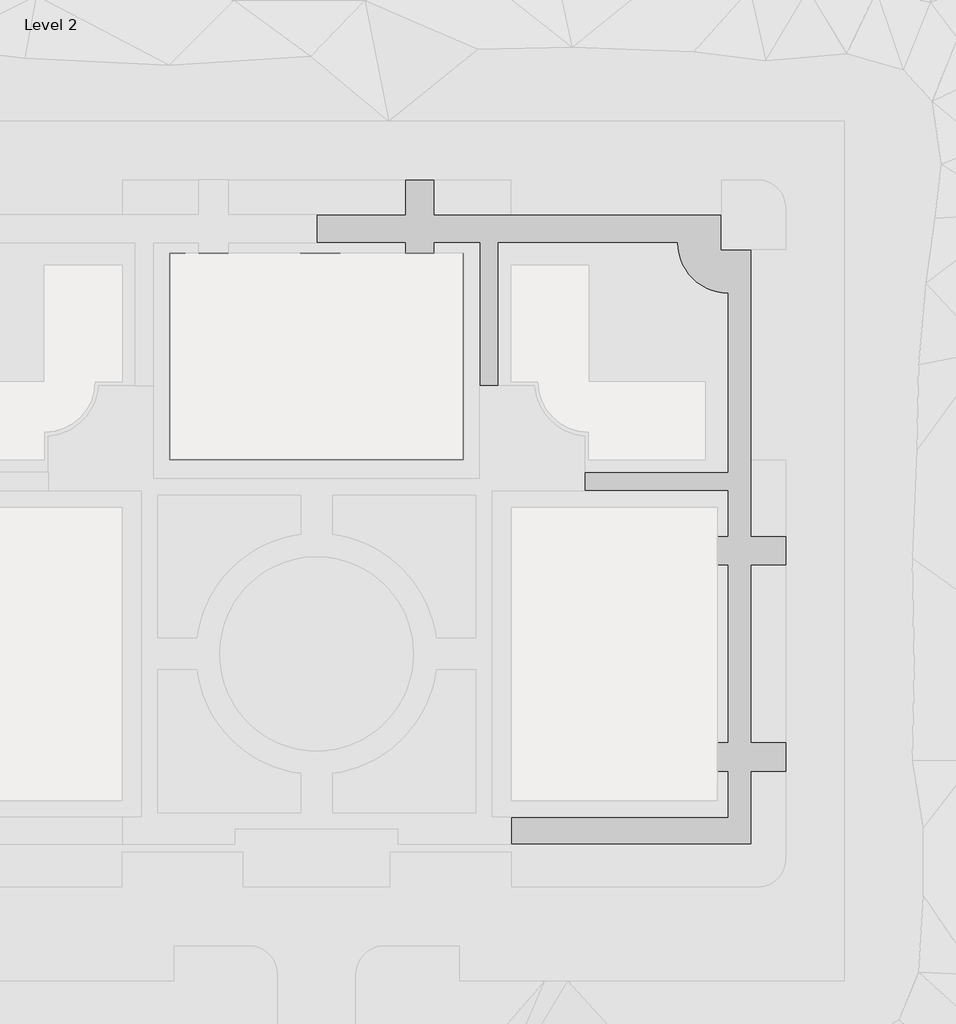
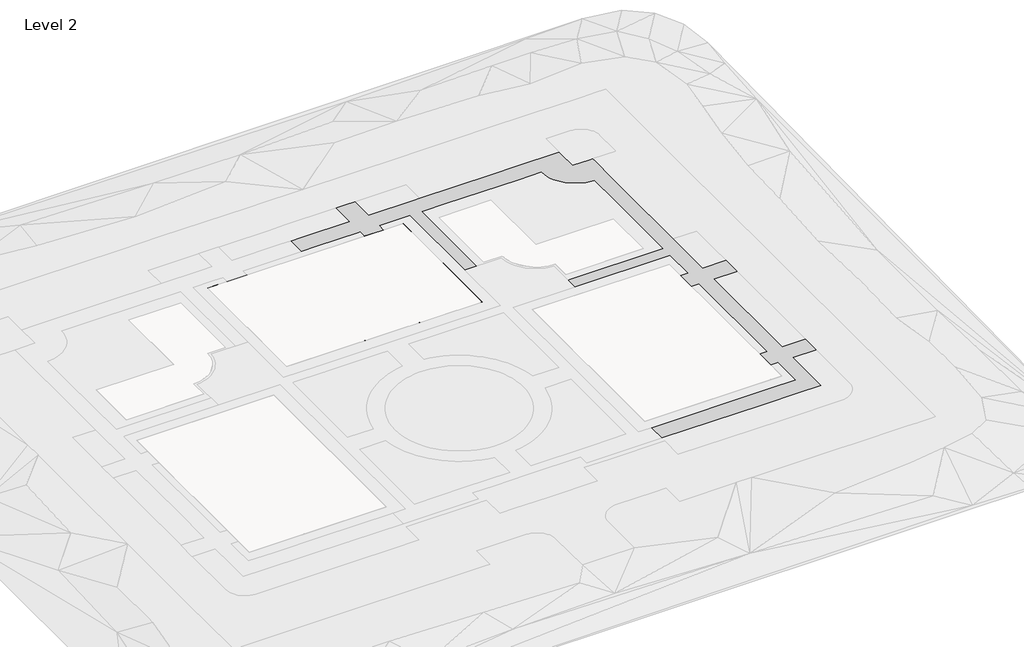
# One storey, part 3 of 3: 2 proxies.
"""IFC4 building model written with IfcOpenShell, lengths in millimetres."""

from ifc_helpers import new_model, si_unit, origin, place, context, project, spatial, triangles, element, save

model = new_model("IFC4")

# Units and contexts
model_context = context("Model", 3, world=origin())
ifc_project = project(units=[si_unit("LENGTHUNIT", "METRE", prefix="MILLI")], contexts=[model_context])

# Site, building, storey
site = spatial("IfcSite", under=ifc_project)
building = spatial("IfcBuilding", under=site)
storey = spatial("IfcBuildingStorey", under=building, Name="Level 2", Elevation=3047.9999999)

# Proxies
placement = place(None, origin())
element("IfcBuildingElementProxy", 1, Name="Building Element Proxy", at=placement, inside=storey, context=model_context, shape_type="Tessellation", body=[
    triangles([(-110993.3460205, -28178.7218628, 2743.0404167), (-110993.3460205, -28178.7218628, 3048.0), (-113374.7541504, -28178.7218628, 2743.0404167), (-113374.7541504, -28178.7218628, 3048.0), (-113374.7541504, -60487.5218628, 2743.0404167), (-113374.7541504, -60487.5218628, 3048.0), (-108258.9733887, -60487.5218628, 2743.0404167), (-108258.9733887, -60487.5218628, 3048.0), (-94745.3238281, -60487.5218628, 2743.0404167), (-94745.3238281, -60487.5218628, 3048.0), (-81900.5357666, -60487.5218628, 2743.0404167), (-81900.5357666, -60487.5218628, 3048.0), (-67349.9588013, -60487.5218628, 2743.0404167), (-67349.9588013, -60487.5218628, 3048.0), (-67349.9588013, -28178.7218628, 2743.0404167), (-67349.9588013, -28178.7218628, 3048.0)], [[1, 4, 2], [1, 3, 4], [3, 6, 4], [3, 5, 6], [5, 8, 6], [5, 7, 8], [7, 10, 8], [7, 9, 10], [9, 12, 10], [9, 11, 12], [11, 14, 12], [11, 13, 14], [13, 16, 14], [13, 15, 16]], closed=False),
    triangles([(-86679.0999023, -28178.7218628, 2743.0404167), (-86679.0999023, -28178.7218628, 3048.0), (-92962.2791748, -28178.7218628, 2743.0404167), (-92962.2791748, -28178.7218628, 3048.0)], [[1, 4, 2], [1, 3, 4]], closed=False),
    triangles([(-71921.9588013, -28178.7218628, 2743.0404167), (-71921.9588013, -28178.7218628, 3048.0), (-76493.9588013, -28178.7218628, 2743.0404167), (-76493.9588013, -28178.7218628, 3048.0)], [[1, 4, 2], [1, 3, 4]], closed=False),
    triangles([(-104230.7541504, -28178.7218628, 2743.0404167), (-104230.7541504, -28178.7218628, 3048.0), (-108802.7541504, -28178.7218628, 2743.0404167), (-108802.7541504, -28178.7218628, 3048.0)], [[1, 4, 2], [1, 3, 4]], closed=False),
    triangles([(-67349.9588013, -28178.7218628, 2743.0404167), (-113374.7541504, -28178.7218628, 2743.0404167), (-113374.7541504, -60487.5218628, 2743.0404167), (-67349.9588013, -60487.5218628, 2743.0404167)], [[2, 3, 4], [4, 1, 2]], closed=False),
])
element("IfcBuildingElementProxy", 2, Name="Building Element Proxy", at=placement, inside=storey, context=model_context, shape_type="Tessellation", body=[
    triangles([(-25876.6740051, -34406.6370667, 3048.0), (-25876.6740051, -42152.7479736, 3048.0), (-25876.6740051, -51845.1982178, 3048.0), (-25876.6740051, -62500.8408325, 3048.0), (-48299.9588013, -62500.8408325, 3048.0), (-48299.9588013, -65364.3218628, 3048.0), (-25876.6740051, -65364.3218628, 3048.0), (-25876.6740051, -72527.1218628, 3048.0), (-27573.5588013, -72527.1218628, 3048.0), (-27573.5588013, -77099.1218628, 3048.0), (-25876.6740051, -77099.1218628, 3048.0), (-25876.6740051, -104835.9265137, 3048.0), (-27573.5588013, -104835.9265137, 3048.0), (-27573.5588013, -109407.9265137, 3048.0), (-26101.4998169, -109407.9265137, 3048.0), (-25876.6740051, -109407.9265137, 3048.0), (-25876.6740051, -116570.7265137, 3048.0), (-32330.0219604, -116570.7265137, 3048.0), (-59882.3588013, -116570.7265137, 3048.0), (-59882.3588013, -120837.9265137, 3048.0), (-36040.6303528, -120837.9265137, 3048.0), (-27294.8409302, -120837.9265137, 3048.0), (-22239.5588013, -120837.9265137, 3048.0), (-22239.5588013, -116285.655542, 3048.0), (-22239.5588013, -109407.9265137, 3048.0), (-16753.1576385, -109407.9265137, 3048.0), (-16753.1576385, -104835.9265137, 3048.0), (-22125.8471375, -104835.9265137, 3048.0), (-22239.5588013, -104835.9265137, 3048.0), (-22239.5588013, -77099.1218628, 3048.0), (-16753.1576385, -77099.1218628, 3048.0), (-16753.1576385, -72527.1218628, 3048.0), (-22239.5588013, -72527.1218628, 3048.0), (-22239.5588013, -60487.5218628, 3048.0), (-22239.5588013, -54882.9383789, 3048.0), (-22239.5588013, -46411.753125, 3048.0), (-22239.5588013, -35337.7267456, 3048.0), (-22239.5588013, -28669.615155, 3048.0), (-22239.5588013, -27569.1218628, 3048.0), (-23180.2037109, -27569.1218628, 3048.0), (-26963.9588013, -27569.1218628, 3048.0), (-26963.9588013, -23142.3757874, 3048.0), (-26963.9588013, -22082.7218628, 3048.0), (-27869.6965393, -22082.7218628, 3048.0), (-36760.488739, -22082.7218628, 3048.0), (-43016.1185303, -22082.7218628, 3048.0), (-59882.3588013, -22082.7218628, 3048.0), (-61511.5616821, -22082.7218628, 3048.0), (-71921.9588013, -22082.7218628, 3048.0), (-71921.9588013, -16596.3218628, 3048.0), (-76493.9588013, -16596.3218628, 3048.0), (-76493.9588013, -22082.7218628, 3048.0), (-87580.7192871, -22082.7218628, 3048.0), (-90362.3541504, -22082.7218628, 3048.0), (-90362.3541504, -26481.8370667, 3048.0), (-86930.0799316, -26481.8370667, 3048.0), (-76493.9588013, -26481.8370667, 3048.0), (-76493.9588013, -28178.7218628, 3048.0), (-71921.9588013, -28178.7218628, 3048.0), (-71921.9588013, -26481.8370667, 3048.0), (-64759.1588013, -26481.8370667, 3048.0), (-64759.1588013, -48905.1218628, 3048.0), (-61895.677771, -48905.1218628, 3048.0), (-61895.677771, -26481.8370667, 3048.0), (-56244.4599243, -26481.8370667, 3048.0), (-39259.3524902, -26481.8370667, 3048.0), (-33801.4740051, -26481.8370667, 3048.0), (-33751.6444885, -27369.1340698, 3048.0), (-33602.7814819, -28245.2712891, 3048.0), (-33356.7592896, -29099.2331177, 3048.0), (-33016.6707458, -29920.2783508, 3048.0), (-32586.792334, -30698.0843628, 3048.0), (-32072.5307007, -31422.8680298, 3048.0), (-31480.3528931, -32085.5159546, 3048.0), (-30817.7049683, -32677.6960876, 3048.0), (-30092.9213013, -33191.9577209, 3048.0), (-29315.1152893, -33621.8361328, 3048.0), (-28494.0677307, -33961.9246765, 3048.0), (-27640.1059021, -34207.9468689, 3048.0), (-26763.9686829, -34356.80755, 3048.0)], [[19, 20, 21], [58, 59, 60], [64, 62, 63], [18, 19, 21], [76, 41, 75], [75, 41, 74], [76, 77, 41], [71, 72, 41], [41, 73, 74], [73, 41, 72], [70, 71, 41], [70, 41, 69], [7, 5, 6], [21, 22, 18], [68, 69, 41], [53, 55, 56], [57, 60, 49], [57, 58, 60], [56, 57, 52], [49, 52, 57], [53, 54, 55], [51, 52, 50], [50, 52, 49], [53, 56, 52], [49, 60, 61], [48, 61, 64], [61, 62, 64], [47, 64, 65], [46, 65, 66], [48, 64, 47], [66, 45, 46], [46, 47, 65], [44, 45, 67], [45, 66, 67], [67, 68, 41], [61, 48, 49], [41, 77, 78], [17, 18, 22], [29, 12, 16], [14, 15, 13], [22, 23, 17], [12, 15, 16], [33, 11, 30], [12, 30, 11], [10, 11, 8], [13, 15, 12], [8, 11, 33], [16, 17, 24], [25, 16, 24], [25, 26, 28], [25, 29, 16], [28, 26, 27], [30, 12, 29], [31, 32, 30], [29, 25, 28], [30, 32, 33], [17, 23, 24], [4, 7, 34], [7, 8, 33], [4, 5, 7], [9, 10, 8], [80, 1, 41], [41, 42, 67], [78, 79, 41], [42, 43, 44], [44, 67, 42], [79, 80, 41], [2, 3, 36], [35, 36, 3], [35, 3, 4], [4, 34, 35], [2, 36, 37], [38, 41, 1], [41, 38, 40], [38, 39, 40], [38, 1, 37], [1, 2, 37], [34, 7, 33]], closed=False),
])

save(model, "model.ifc")
